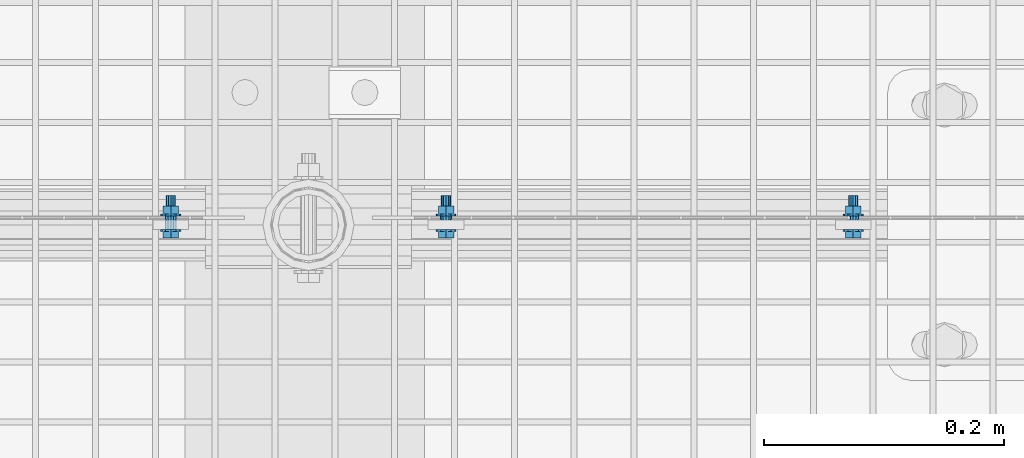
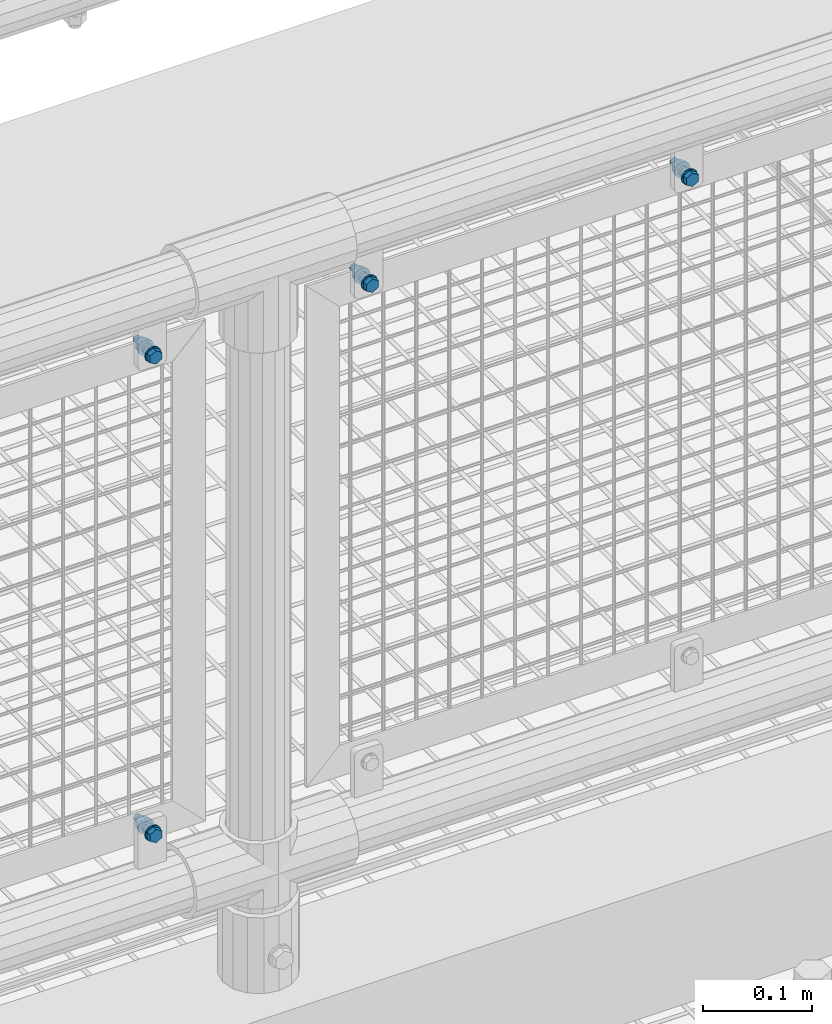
# One storey, part 98 of 1530: 4 mechanical fasteners.
"""IFC2X3 building model written with IfcOpenShell, lengths in millimetres."""

from ifc_helpers import new_model, si_unit, frame, origin_with_axes, place, context, subcontext, project, spatial, faceted_brep, source, transform, mapped, material, type_object, element, save


model = new_model("IFC2X3")

# Units and contexts
model_context = context("Model", 3, precision=1e-05, world=origin_with_axes())
body_context = subcontext(model_context, "Body", "Model", "MODEL_VIEW")
ifc_project = project(units=[si_unit("LENGTHUNIT", "METRE", prefix="MILLI"), si_unit("AREAUNIT", "SQUARE_METRE"), si_unit("VOLUMEUNIT", "CUBIC_METRE"), si_unit("MASSUNIT", "GRAM", prefix="KILO"), si_unit("TIMEUNIT", "SECOND"), si_unit("PLANEANGLEUNIT", "RADIAN"), si_unit("SOLIDANGLEUNIT", "STERADIAN"), si_unit("THERMODYNAMICTEMPERATUREUNIT", "DEGREE_CELSIUS"), si_unit("LUMINOUSINTENSITYUNIT", "LUMEN")], contexts=[model_context])

# Site, building, storey
site_placement = place(None, origin_with_axes())
site = spatial("IfcSite", under=ifc_project, at=site_placement, Name="Brattvåg", CompositionType="ELEMENT")
building_placement = place(site_placement, origin_with_axes())
building = spatial("IfcBuilding", under=site, at=building_placement, Name="Undefined", CompositionType="ELEMENT")
storey_placement = place(building_placement, origin_with_axes())
storey = spatial("IfcBuildingStorey", under=building, at=storey_placement, Name="Undefined", CompositionType="ELEMENT", Elevation=0.0)

# Mechanical fasteners
ifc_material = material(Name="8")
mechanical_fastener_type = type_object("IfcMechanicalFastenerType", Name="Bolt assembly")
shared_shape_1 = source(origin_with_axes(), body_context, "Body", "Brep", [
    faceted_brep([(7.50555349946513, -6.90000021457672, 0.0), (3.75277674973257, -6.90000021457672, 6.5), (-3.75277674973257, -6.90000021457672, 6.5), (-7.50555349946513, -6.90000021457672, 9.19165206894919e-16), (-3.75277674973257, -6.90000021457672, -6.5), (3.75277674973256, -6.90000021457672, -6.5), (3.75277674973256, -1.60000002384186, -6.5), (-3.75277674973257, -1.60000002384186, -6.5), (-7.50555349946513, -1.60000002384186, 9.19165206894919e-16), (-3.75277674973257, -1.60000002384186, 6.5), (3.75277674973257, -1.60000002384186, 6.5), (7.50555349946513, -1.60000002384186, 0.0), (4.0, -1.60000002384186, 0.0), (3.46410161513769, -1.60000002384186, 2.00000000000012), (1.99999999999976, -1.60000002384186, 3.46410161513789), (-4.14534392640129e-13, -1.60000002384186, 4.0), (-2.00000000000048, -1.60000002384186, 3.46410161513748), (-3.4641016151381, -1.60000002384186, 1.9999999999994), (-4.0, -1.60000002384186, -8.29068785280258e-13), (-3.46410161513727, -1.60000002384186, -2.00000000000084), (-1.99999999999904, -1.60000002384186, -3.46410161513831), (1.23916228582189e-12, -1.60000002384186, -4.0), (2.00000000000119, -1.60000002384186, -3.46410161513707), (3.46410161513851, -1.60000002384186, -1.99999999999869), (3.46410161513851, 28.3999999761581, -1.99999999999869), (2.00000000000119, 28.3999999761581, -3.46410161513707), (1.23916228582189e-12, 28.3999999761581, -4.0), (-1.99999999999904, 28.3999999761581, -3.46410161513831), (-3.46410161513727, 28.3999999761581, -2.00000000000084), (-4.0, 28.3999999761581, -8.29068785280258e-13), (-3.4641016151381, 28.3999999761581, 1.9999999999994), (-2.00000000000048, 28.3999999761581, 3.46410161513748), (-4.14534392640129e-13, 28.3999999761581, 4.0), (1.99999999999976, 28.3999999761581, 3.46410161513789), (3.46410161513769, 28.3999999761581, 2.00000000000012), (4.0, 28.3999999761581, 0.0), (8.5, -1.60000002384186, 0.0), (7.36121593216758, -1.60000002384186, 4.25000000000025), (4.24999999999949, -1.60000002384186, 7.36121593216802), (-8.80885584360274e-13, -1.60000002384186, 8.5), (-4.25000000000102, -1.60000002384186, 7.36121593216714), (-7.36121593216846, -1.60000002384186, 4.24999999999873), (-8.5, -1.60000002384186, -1.76177116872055e-12), (-7.3612159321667, -1.60000002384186, -4.25000000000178), (-4.24999999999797, -1.60000002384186, -7.3612159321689), (2.63321985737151e-12, -1.60000002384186, -8.5), (4.25000000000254, -1.60000002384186, -7.36121593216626), (7.36121593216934, -1.60000002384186, -4.24999999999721), (7.36121593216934, 0.0, -4.24999999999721), (4.25000000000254, 0.0, -7.36121593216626), (2.63321985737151e-12, 0.0, -8.5), (-4.24999999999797, 0.0, -7.3612159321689), (-7.3612159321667, 0.0, -4.25000000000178), (-8.5, 0.0, -1.76177116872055e-12), (-7.36121593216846, 0.0, 4.24999999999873), (-4.25000000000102, 0.0, 7.36121593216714), (-8.80885584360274e-13, 0.0, 8.5), (4.24999999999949, 0.0, 7.36121593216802), (7.36121593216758, 0.0, 4.25000000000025), (8.5, 0.0, 0.0), (8.5, 11.5015258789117, 0.0), (7.36121593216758, 11.5015258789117, 4.25000000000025), (4.24999999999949, 11.5015258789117, 7.36121593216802), (-8.80885584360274e-13, 11.5015258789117, 8.5), (-4.25000000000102, 11.5015258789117, 7.36121593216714), (-7.36121593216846, 11.5015258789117, 4.24999999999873), (-8.5, 11.5015258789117, -1.76177116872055e-12), (-7.3612159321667, 11.5015258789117, -4.25000000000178), (-4.24999999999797, 11.5015258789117, -7.3612159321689), (2.63321985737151e-12, 11.5015258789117, -8.5), (4.25000000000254, 11.5015258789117, -7.36121593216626), (7.36121593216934, 11.5015258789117, -4.24999999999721), (7.36121593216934, 13.1015259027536, -4.24999999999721), (4.25000000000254, 13.1015259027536, -7.36121593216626), (2.63321985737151e-12, 13.1015259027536, -8.5), (-4.24999999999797, 13.1015259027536, -7.3612159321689), (-7.3612159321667, 13.1015259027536, -4.25000000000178), (-8.5, 13.1015259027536, -1.76177116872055e-12), (-7.36121593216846, 13.1015259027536, 4.24999999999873), (-4.25000000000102, 13.1015259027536, 7.36121593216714), (-8.80885584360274e-13, 13.1015259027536, 8.5), (4.24999999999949, 13.1015259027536, 7.36121593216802), (7.36121593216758, 13.1015259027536, 4.25000000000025), (8.5, 13.1015259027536, 0.0), (7.50555349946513, 13.1015259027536, 0.0), (3.75277674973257, 13.1015259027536, 6.5), (-3.75277674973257, 13.1015259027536, 6.5), (-7.50555349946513, 13.1015259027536, 9.19165206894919e-16), (-3.75277674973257, 13.1015259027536, -6.5), (3.75277674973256, 13.1015259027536, -6.5), (3.75277674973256, 19.9015260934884, -6.5), (-3.75277674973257, 19.9015260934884, -6.5), (-7.50555349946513, 19.9015260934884, 9.19165206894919e-16), (-3.75277674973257, 19.9015260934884, 6.5), (3.75277674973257, 19.9015260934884, 6.5), (7.50555349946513, 19.9015260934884, 0.0)], [[[0, 1, 2, 3, 4, 5]], [[6, 7, 8, 9, 10, 11]], [[0, 11, 10, 1]], [[1, 10, 9, 2]], [[2, 9, 8, 3]], [[3, 8, 7, 4]], [[4, 7, 6, 5]], [[5, 6, 11, 0]], [[12, 13, 14, 15, 16, 17, 18, 19, 20, 21, 22, 23]], [[24, 25, 26, 27, 28, 29, 30, 31, 32, 33, 34, 35]], [[12, 35, 34, 13]], [[13, 34, 33, 14]], [[14, 33, 32, 15]], [[15, 32, 31, 16]], [[16, 31, 30, 17]], [[17, 30, 29, 18]], [[18, 29, 28, 19]], [[19, 28, 27, 20]], [[20, 27, 26, 21]], [[21, 26, 25, 22]], [[22, 25, 24, 23]], [[23, 24, 35, 12]], [[36, 37, 38, 39, 40, 41, 42, 43, 44, 45, 46, 47]], [[48, 49, 50, 51, 52, 53, 54, 55, 56, 57, 58, 59]], [[36, 59, 58, 37]], [[37, 58, 57, 38]], [[38, 57, 56, 39]], [[39, 56, 55, 40]], [[40, 55, 54, 41]], [[41, 54, 53, 42]], [[42, 53, 52, 43]], [[43, 52, 51, 44]], [[44, 51, 50, 45]], [[45, 50, 49, 46]], [[46, 49, 48, 47]], [[47, 48, 59, 36]], [[60, 61, 62, 63, 64, 65, 66, 67, 68, 69, 70, 71]], [[72, 73, 74, 75, 76, 77, 78, 79, 80, 81, 82, 83]], [[60, 83, 82, 61]], [[61, 82, 81, 62]], [[62, 81, 80, 63]], [[63, 80, 79, 64]], [[64, 79, 78, 65]], [[65, 78, 77, 66]], [[66, 77, 76, 67]], [[67, 76, 75, 68]], [[68, 75, 74, 69]], [[69, 74, 73, 70]], [[70, 73, 72, 71]], [[71, 72, 83, 60]], [[84, 85, 86, 87, 88, 89]], [[90, 91, 92, 93, 94, 95]], [[84, 95, 94, 85]], [[85, 94, 93, 86]], [[86, 93, 92, 87]], [[87, 92, 91, 88]], [[88, 91, 90, 89]], [[89, 90, 95, 84]]]),
    faceted_brep([(5.0, 0.1, 0.0), (4.33012701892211, 0.1, 2.50000000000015), (2.4999999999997, 0.1, 4.33012701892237), (-5.18167990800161e-13, 0.1, 5.0), (-2.5000000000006, 0.1, 4.33012701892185), (-4.33012701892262, 0.1, 2.49999999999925), (-5.0, 0.1, -1.03633598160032e-12), (-4.33012701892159, 0.1, -2.50000000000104), (-2.49999999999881, 0.1, -4.33012701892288), (1.54895285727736e-12, 0.1, -5.0), (2.50000000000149, 0.1, -4.33012701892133), (4.33012701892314, 0.1, -2.49999999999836), (4.33012701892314, 8.1, -2.49999999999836), (2.50000000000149, 8.1, -4.33012701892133), (1.54895285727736e-12, 8.1, -5.0), (-2.49999999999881, 8.1, -4.33012701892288), (-4.33012701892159, 8.1, -2.50000000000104), (-5.0, 8.1, -1.03633598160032e-12), (-4.33012701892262, 8.1, 2.49999999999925), (-2.5000000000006, 8.1, 4.33012701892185), (-5.18167990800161e-13, 8.1, 5.0), (2.4999999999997, 8.1, 4.33012701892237), (4.33012701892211, 8.1, 2.50000000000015), (5.0, 8.1, 0.0), (5.0, 8.40152587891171, 0.0), (4.33012701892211, 8.40152587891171, 2.50000000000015), (2.4999999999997, 8.40152587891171, 4.33012701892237), (-5.18167990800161e-13, 8.40152587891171, 5.0), (-2.5000000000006, 8.40152587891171, 4.33012701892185), (-4.33012701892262, 8.40152587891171, 2.49999999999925), (-5.0, 8.40152587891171, -1.03633598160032e-12), (-4.33012701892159, 8.40152587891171, -2.50000000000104), (-2.49999999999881, 8.40152587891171, -4.33012701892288), (1.54895285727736e-12, 8.40152587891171, -5.0), (2.50000000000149, 8.40152587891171, -4.33012701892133), (4.33012701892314, 8.40152587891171, -2.49999999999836), (4.33012701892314, 11.5015258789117, -2.49999999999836), (2.50000000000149, 11.5015258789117, -4.33012701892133), (1.54895285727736e-12, 11.5015258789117, -5.0), (-2.49999999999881, 11.5015258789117, -4.33012701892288), (-4.33012701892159, 11.5015258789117, -2.50000000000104), (-5.0, 11.5015258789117, -1.03633598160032e-12), (-4.33012701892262, 11.5015258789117, 2.49999999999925), (-2.5000000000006, 11.5015258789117, 4.33012701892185), (-5.18167990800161e-13, 11.5015258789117, 5.0), (2.4999999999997, 11.5015258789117, 4.33012701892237), (4.33012701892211, 11.5015258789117, 2.50000000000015), (5.0, 11.5015258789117, 0.0)], [[[0, 1, 2, 3, 4, 5, 6, 7, 8, 9, 10, 11]], [[12, 13, 14, 15, 16, 17, 18, 19, 20, 21, 22, 23]], [[0, 23, 22, 1]], [[1, 22, 21, 2]], [[2, 21, 20, 3]], [[3, 20, 19, 4]], [[4, 19, 18, 5]], [[5, 18, 17, 6]], [[6, 17, 16, 7]], [[7, 16, 15, 8]], [[8, 15, 14, 9]], [[9, 14, 13, 10]], [[10, 13, 12, 11]], [[11, 12, 23, 0]], [[24, 25, 26, 27, 28, 29, 30, 31, 32, 33, 34, 35]], [[36, 37, 38, 39, 40, 41, 42, 43, 44, 45, 46, 47]], [[24, 47, 46, 25]], [[25, 46, 45, 26]], [[26, 45, 44, 27]], [[27, 44, 43, 28]], [[28, 43, 42, 29]], [[29, 42, 41, 30]], [[30, 41, 40, 31]], [[31, 40, 39, 32]], [[32, 39, 38, 33]], [[33, 38, 37, 34]], [[34, 37, 36, 35]], [[35, 36, 47, 24]]]),
])
for number, where, z_axis, x_axis, name in (
    (1, (13535.8509521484, 7660.49950027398, 889.680069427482), (-1.0, 1.99999855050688e-09, 0.0), (0.0, 0.0, 1.0), "Bolt assembly"),
    (2, (13875.8511047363, 7660.49950027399, 889.680069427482), (-1.0, 1.99999855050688e-09, 0.0), (0.0, 0.0, 1.0), "Bolt assembly"),
):
    element("IfcMechanicalFastener", number, at=place(storey_placement, frame(where, z_axis=z_axis, x_axis=x_axis)), inside=storey, type_object=mechanical_fastener_type, material=ifc_material, Name=name, NominalDiameter=8.0, NominalLength=30.0, context=body_context, shape_type="MappedRepresentation", body=[
        mapped(shared_shape_1, transform((0.0, 0.0, 0.0))),
    ])
shared_shape_2 = source(origin_with_axes(), body_context, "Body", "Brep", [
    faceted_brep([(7.50555349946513, -6.90000021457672, 0.0), (3.75277674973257, -6.90000021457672, 6.5), (-3.75277674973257, -6.90000021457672, 6.5), (-7.50555349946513, -6.90000021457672, 9.19165206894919e-16), (-3.75277674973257, -6.90000021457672, -6.5), (3.75277674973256, -6.90000021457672, -6.5), (3.75277674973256, -1.60000002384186, -6.5), (-3.75277674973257, -1.60000002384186, -6.5), (-7.50555349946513, -1.60000002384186, 9.19165206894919e-16), (-3.75277674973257, -1.60000002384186, 6.5), (3.75277674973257, -1.60000002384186, 6.5), (7.50555349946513, -1.60000002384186, 0.0), (4.0, -1.60000002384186, 0.0), (3.46410161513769, -1.60000002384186, 2.00000000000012), (1.99999999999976, -1.60000002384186, 3.46410161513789), (-4.14534392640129e-13, -1.60000002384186, 4.0), (-2.00000000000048, -1.60000002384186, 3.46410161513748), (-3.4641016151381, -1.60000002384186, 1.9999999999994), (-4.0, -1.60000002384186, -8.29068785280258e-13), (-3.46410161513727, -1.60000002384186, -2.00000000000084), (-1.99999999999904, -1.60000002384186, -3.46410161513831), (1.23916228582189e-12, -1.60000002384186, -4.0), (2.00000000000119, -1.60000002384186, -3.46410161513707), (3.46410161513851, -1.60000002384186, -1.99999999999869), (3.46410161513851, 28.3999999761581, -1.99999999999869), (2.00000000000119, 28.3999999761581, -3.46410161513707), (1.23916228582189e-12, 28.3999999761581, -4.0), (-1.99999999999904, 28.3999999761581, -3.46410161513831), (-3.46410161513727, 28.3999999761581, -2.00000000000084), (-4.0, 28.3999999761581, -8.29068785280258e-13), (-3.4641016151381, 28.3999999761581, 1.9999999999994), (-2.00000000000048, 28.3999999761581, 3.46410161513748), (-4.14534392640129e-13, 28.3999999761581, 4.0), (1.99999999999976, 28.3999999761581, 3.46410161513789), (3.46410161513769, 28.3999999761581, 2.00000000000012), (4.0, 28.3999999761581, 0.0), (8.5, -1.60000002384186, 0.0), (7.36121593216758, -1.60000002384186, 4.25000000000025), (4.24999999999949, -1.60000002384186, 7.36121593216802), (-8.80885584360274e-13, -1.60000002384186, 8.5), (-4.25000000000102, -1.60000002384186, 7.36121593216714), (-7.36121593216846, -1.60000002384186, 4.24999999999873), (-8.5, -1.60000002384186, -1.76177116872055e-12), (-7.3612159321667, -1.60000002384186, -4.25000000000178), (-4.24999999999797, -1.60000002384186, -7.3612159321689), (2.63321985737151e-12, -1.60000002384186, -8.5), (4.25000000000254, -1.60000002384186, -7.36121593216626), (7.36121593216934, -1.60000002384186, -4.24999999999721), (7.36121593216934, 0.0, -4.24999999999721), (4.25000000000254, 0.0, -7.36121593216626), (2.63321985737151e-12, 0.0, -8.5), (-4.24999999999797, 0.0, -7.3612159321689), (-7.3612159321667, 0.0, -4.25000000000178), (-8.5, 0.0, -1.76177116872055e-12), (-7.36121593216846, 0.0, 4.24999999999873), (-4.25000000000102, 0.0, 7.36121593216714), (-8.80885584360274e-13, 0.0, 8.5), (4.24999999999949, 0.0, 7.36121593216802), (7.36121593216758, 0.0, 4.25000000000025), (8.5, 0.0, 0.0), (8.5, 11.5021362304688, 0.0), (7.36121593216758, 11.5021362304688, 4.25000000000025), (4.24999999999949, 11.5021362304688, 7.36121593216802), (-8.80885584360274e-13, 11.5021362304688, 8.5), (-4.25000000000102, 11.5021362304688, 7.36121593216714), (-7.36121593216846, 11.5021362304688, 4.24999999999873), (-8.5, 11.5021362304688, -1.76177116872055e-12), (-7.3612159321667, 11.5021362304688, -4.25000000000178), (-4.24999999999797, 11.5021362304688, -7.3612159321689), (2.63321985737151e-12, 11.5021362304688, -8.5), (4.25000000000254, 11.5021362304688, -7.36121593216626), (7.36121593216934, 11.5021362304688, -4.24999999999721), (7.36121593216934, 13.1021362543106, -4.24999999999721), (4.25000000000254, 13.1021362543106, -7.36121593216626), (2.63321985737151e-12, 13.1021362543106, -8.5), (-4.24999999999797, 13.1021362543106, -7.3612159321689), (-7.3612159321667, 13.1021362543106, -4.25000000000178), (-8.5, 13.1021362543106, -1.76177116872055e-12), (-7.36121593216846, 13.1021362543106, 4.24999999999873), (-4.25000000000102, 13.1021362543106, 7.36121593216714), (-8.80885584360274e-13, 13.1021362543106, 8.5), (4.24999999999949, 13.1021362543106, 7.36121593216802), (7.36121593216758, 13.1021362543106, 4.25000000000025), (8.5, 13.1021362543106, 0.0), (7.50555349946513, 13.1021362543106, 0.0), (3.75277674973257, 13.1021362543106, 6.5), (-3.75277674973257, 13.1021362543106, 6.5), (-7.50555349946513, 13.1021362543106, 9.19165206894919e-16), (-3.75277674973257, 13.1021362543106, -6.5), (3.75277674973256, 13.1021362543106, -6.5), (3.75277674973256, 19.9021364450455, -6.5), (-3.75277674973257, 19.9021364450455, -6.5), (-7.50555349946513, 19.9021364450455, 9.19165206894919e-16), (-3.75277674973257, 19.9021364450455, 6.5), (3.75277674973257, 19.9021364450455, 6.5), (7.50555349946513, 19.9021364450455, 0.0)], [[[0, 1, 2, 3, 4, 5]], [[6, 7, 8, 9, 10, 11]], [[0, 11, 10, 1]], [[1, 10, 9, 2]], [[2, 9, 8, 3]], [[3, 8, 7, 4]], [[4, 7, 6, 5]], [[5, 6, 11, 0]], [[12, 13, 14, 15, 16, 17, 18, 19, 20, 21, 22, 23]], [[24, 25, 26, 27, 28, 29, 30, 31, 32, 33, 34, 35]], [[12, 35, 34, 13]], [[13, 34, 33, 14]], [[14, 33, 32, 15]], [[15, 32, 31, 16]], [[16, 31, 30, 17]], [[17, 30, 29, 18]], [[18, 29, 28, 19]], [[19, 28, 27, 20]], [[20, 27, 26, 21]], [[21, 26, 25, 22]], [[22, 25, 24, 23]], [[23, 24, 35, 12]], [[36, 37, 38, 39, 40, 41, 42, 43, 44, 45, 46, 47]], [[48, 49, 50, 51, 52, 53, 54, 55, 56, 57, 58, 59]], [[36, 59, 58, 37]], [[37, 58, 57, 38]], [[38, 57, 56, 39]], [[39, 56, 55, 40]], [[40, 55, 54, 41]], [[41, 54, 53, 42]], [[42, 53, 52, 43]], [[43, 52, 51, 44]], [[44, 51, 50, 45]], [[45, 50, 49, 46]], [[46, 49, 48, 47]], [[47, 48, 59, 36]], [[60, 61, 62, 63, 64, 65, 66, 67, 68, 69, 70, 71]], [[72, 73, 74, 75, 76, 77, 78, 79, 80, 81, 82, 83]], [[60, 83, 82, 61]], [[61, 82, 81, 62]], [[62, 81, 80, 63]], [[63, 80, 79, 64]], [[64, 79, 78, 65]], [[65, 78, 77, 66]], [[66, 77, 76, 67]], [[67, 76, 75, 68]], [[68, 75, 74, 69]], [[69, 74, 73, 70]], [[70, 73, 72, 71]], [[71, 72, 83, 60]], [[84, 85, 86, 87, 88, 89]], [[90, 91, 92, 93, 94, 95]], [[84, 95, 94, 85]], [[85, 94, 93, 86]], [[86, 93, 92, 87]], [[87, 92, 91, 88]], [[88, 91, 90, 89]], [[89, 90, 95, 84]]]),
    faceted_brep([(5.0, 0.1, 0.0), (4.33012701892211, 0.1, 2.50000000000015), (2.4999999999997, 0.1, 4.33012701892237), (-5.18167990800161e-13, 0.1, 5.0), (-2.5000000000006, 0.1, 4.33012701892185), (-4.33012701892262, 0.1, 2.49999999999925), (-5.0, 0.1, -1.03633598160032e-12), (-4.33012701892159, 0.1, -2.50000000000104), (-2.49999999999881, 0.1, -4.33012701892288), (1.54895285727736e-12, 0.1, -5.0), (2.50000000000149, 0.1, -4.33012701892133), (4.33012701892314, 0.1, -2.49999999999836), (4.33012701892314, 8.1, -2.49999999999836), (2.50000000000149, 8.1, -4.33012701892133), (1.54895285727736e-12, 8.1, -5.0), (-2.49999999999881, 8.1, -4.33012701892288), (-4.33012701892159, 8.1, -2.50000000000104), (-5.0, 8.1, -1.03633598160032e-12), (-4.33012701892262, 8.1, 2.49999999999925), (-2.5000000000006, 8.1, 4.33012701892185), (-5.18167990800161e-13, 8.1, 5.0), (2.4999999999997, 8.1, 4.33012701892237), (4.33012701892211, 8.1, 2.50000000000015), (5.0, 8.1, 0.0), (5.0, 8.40213623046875, 0.0), (4.33012701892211, 8.40213623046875, 2.50000000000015), (2.4999999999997, 8.40213623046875, 4.33012701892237), (-5.18167990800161e-13, 8.40213623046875, 5.0), (-2.5000000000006, 8.40213623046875, 4.33012701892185), (-4.33012701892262, 8.40213623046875, 2.49999999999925), (-5.0, 8.40213623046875, -1.03633598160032e-12), (-4.33012701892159, 8.40213623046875, -2.50000000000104), (-2.49999999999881, 8.40213623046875, -4.33012701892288), (1.54895285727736e-12, 8.40213623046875, -5.0), (2.50000000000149, 8.40213623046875, -4.33012701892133), (4.33012701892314, 8.40213623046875, -2.49999999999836), (4.33012701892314, 11.5021362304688, -2.49999999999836), (2.50000000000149, 11.5021362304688, -4.33012701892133), (1.54895285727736e-12, 11.5021362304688, -5.0), (-2.49999999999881, 11.5021362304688, -4.33012701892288), (-4.33012701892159, 11.5021362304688, -2.50000000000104), (-5.0, 11.5021362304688, -1.03633598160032e-12), (-4.33012701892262, 11.5021362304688, 2.49999999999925), (-2.5000000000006, 11.5021362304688, 4.33012701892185), (-5.18167990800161e-13, 11.5021362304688, 5.0), (2.4999999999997, 11.5021362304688, 4.33012701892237), (4.33012701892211, 11.5021362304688, 2.50000000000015), (5.0, 11.5021362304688, 0.0)], [[[0, 1, 2, 3, 4, 5, 6, 7, 8, 9, 10, 11]], [[12, 13, 14, 15, 16, 17, 18, 19, 20, 21, 22, 23]], [[0, 23, 22, 1]], [[1, 22, 21, 2]], [[2, 21, 20, 3]], [[3, 20, 19, 4]], [[4, 19, 18, 5]], [[5, 18, 17, 6]], [[6, 17, 16, 7]], [[7, 16, 15, 8]], [[8, 15, 14, 9]], [[9, 14, 13, 10]], [[10, 13, 12, 11]], [[11, 12, 23, 0]], [[24, 25, 26, 27, 28, 29, 30, 31, 32, 33, 34, 35]], [[36, 37, 38, 39, 40, 41, 42, 43, 44, 45, 46, 47]], [[24, 47, 46, 25]], [[25, 46, 45, 26]], [[26, 45, 44, 27]], [[27, 44, 43, 28]], [[28, 43, 42, 29]], [[29, 42, 41, 30]], [[30, 41, 40, 31]], [[31, 40, 39, 32]], [[32, 39, 38, 33]], [[33, 38, 37, 34]], [[34, 37, 36, 35]], [[35, 36, 47, 24]]]),
])
mechanical_fastener_1_placement = place(storey_placement, frame((13306.0000915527, 7660.49888992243, 889.679782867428), z_axis=(-1.0, 1.99999855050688e-09, 0.0), x_axis=(0.0, 0.0, 1.0)))
element("IfcMechanicalFastener", 3, at=mechanical_fastener_1_placement, inside=storey, type_object=mechanical_fastener_type, material=ifc_material, Name="Bolt assembly", NominalDiameter=8.0, NominalLength=30.0, context=body_context, shape_type="MappedRepresentation", body=[
    mapped(shared_shape_2, transform((0.0, 0.0, 0.0))),
])
shared_shape_3 = source(origin_with_axes(), body_context, "Body", "Brep", [
    faceted_brep([(7.50555349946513, -6.899000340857, 0.0), (3.75277674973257, -6.899000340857, 6.5), (-3.75277674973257, -6.899000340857, 6.5), (-7.50555349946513, -6.899000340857, 9.19165206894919e-16), (-3.75277674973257, -6.899000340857, -6.5), (3.75277674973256, -6.899000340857, -6.5), (3.75277674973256, -1.59900015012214, -6.5), (-3.75277674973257, -1.59900015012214, -6.5), (-7.50555349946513, -1.59900015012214, 9.19165206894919e-16), (-3.75277674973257, -1.59900015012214, 6.5), (3.75277674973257, -1.59900015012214, 6.5), (7.50555349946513, -1.59900015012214, 0.0), (4.0, -1.59900015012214, 0.0), (3.46410161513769, -1.59900015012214, 2.00000000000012), (1.99999999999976, -1.59900015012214, 3.46410161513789), (-4.14534392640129e-13, -1.59900015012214, 4.0), (-2.00000000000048, -1.59900015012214, 3.46410161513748), (-3.4641016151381, -1.59900015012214, 1.9999999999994), (-4.0, -1.59900015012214, -8.29068785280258e-13), (-3.46410161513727, -1.59900015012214, -2.00000000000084), (-1.99999999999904, -1.59900015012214, -3.46410161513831), (1.23916228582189e-12, -1.59900015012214, -4.0), (2.00000000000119, -1.59900015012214, -3.46410161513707), (3.46410161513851, -1.59900015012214, -1.99999999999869), (3.46410161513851, 28.4009998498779, -1.99999999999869), (2.00000000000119, 28.4009998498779, -3.46410161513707), (1.23916228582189e-12, 28.4009998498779, -4.0), (-1.99999999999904, 28.4009998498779, -3.46410161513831), (-3.46410161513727, 28.4009998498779, -2.00000000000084), (-4.0, 28.4009998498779, -8.29068785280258e-13), (-3.4641016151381, 28.4009998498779, 1.9999999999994), (-2.00000000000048, 28.4009998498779, 3.46410161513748), (-4.14534392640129e-13, 28.4009998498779, 4.0), (1.99999999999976, 28.4009998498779, 3.46410161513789), (3.46410161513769, 28.4009998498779, 2.00000000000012), (4.0, 28.4009998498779, 0.0), (8.5, -1.59900015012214, 0.0), (7.36121593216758, -1.59900015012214, 4.25000000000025), (4.24999999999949, -1.59900015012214, 7.36121593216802), (-8.80885584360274e-13, -1.59900015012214, 8.5), (-4.25000000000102, -1.59900015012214, 7.36121593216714), (-7.36121593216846, -1.59900015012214, 4.24999999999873), (-8.5, -1.59900015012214, -1.76177116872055e-12), (-7.3612159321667, -1.59900015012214, -4.25000000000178), (-4.24999999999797, -1.59900015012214, -7.3612159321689), (2.63321985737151e-12, -1.59900015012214, -8.5), (4.25000000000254, -1.59900015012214, -7.36121593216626), (7.36121593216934, -1.59900015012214, -4.24999999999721), (7.36121593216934, 0.000999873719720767, -4.24999999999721), (4.25000000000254, 0.000999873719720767, -7.36121593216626), (2.63321985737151e-12, 0.000999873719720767, -8.5), (-4.24999999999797, 0.000999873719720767, -7.3612159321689), (-7.3612159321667, 0.000999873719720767, -4.25000000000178), (-8.5, 0.000999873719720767, -1.76177116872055e-12), (-7.36121593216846, 0.000999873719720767, 4.24999999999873), (-4.25000000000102, 0.000999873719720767, 7.36121593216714), (-8.80885584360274e-13, 0.000999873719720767, 8.5), (4.24999999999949, 0.000999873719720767, 7.36121593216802), (7.36121593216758, 0.000999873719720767, 4.25000000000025), (8.5, 0.000999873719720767, 0.0), (8.5, 11.5022147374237, 0.0), (7.36121593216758, 11.5022147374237, 4.25000000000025), (4.24999999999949, 11.5022147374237, 7.36121593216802), (-8.80885584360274e-13, 11.5022147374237, 8.5), (-4.25000000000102, 11.5022147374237, 7.36121593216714), (-7.36121593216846, 11.5022147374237, 4.24999999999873), (-8.5, 11.5022147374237, -1.76177116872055e-12), (-7.3612159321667, 11.5022147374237, -4.25000000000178), (-4.24999999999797, 11.5022147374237, -7.3612159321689), (2.63321985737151e-12, 11.5022147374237, -8.5), (4.25000000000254, 11.5022147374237, -7.36121593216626), (7.36121593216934, 11.5022147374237, -4.24999999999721), (7.36121593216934, 13.1022147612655, -4.24999999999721), (4.25000000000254, 13.1022147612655, -7.36121593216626), (2.63321985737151e-12, 13.1022147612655, -8.5), (-4.24999999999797, 13.1022147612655, -7.3612159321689), (-7.3612159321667, 13.1022147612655, -4.25000000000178), (-8.5, 13.1022147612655, -1.76177116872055e-12), (-7.36121593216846, 13.1022147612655, 4.24999999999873), (-4.25000000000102, 13.1022147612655, 7.36121593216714), (-8.80885584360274e-13, 13.1022147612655, 8.5), (4.24999999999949, 13.1022147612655, 7.36121593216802), (7.36121593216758, 13.1022147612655, 4.25000000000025), (8.5, 13.1022147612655, 0.0), (7.50555349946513, 13.1022147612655, 0.0), (3.75277674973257, 13.1022147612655, 6.5), (-3.75277674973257, 13.1022147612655, 6.5), (-7.50555349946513, 13.1022147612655, 9.19165206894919e-16), (-3.75277674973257, 13.1022147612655, -6.5), (3.75277674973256, 13.1022147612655, -6.5), (3.75277674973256, 19.9022149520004, -6.5), (-3.75277674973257, 19.9022149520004, -6.5), (-7.50555349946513, 19.9022149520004, 9.19165206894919e-16), (-3.75277674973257, 19.9022149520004, 6.5), (3.75277674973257, 19.9022149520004, 6.5), (7.50555349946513, 19.9022149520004, 0.0)], [[[0, 1, 2, 3, 4, 5]], [[6, 7, 8, 9, 10, 11]], [[0, 11, 10, 1]], [[1, 10, 9, 2]], [[2, 9, 8, 3]], [[3, 8, 7, 4]], [[4, 7, 6, 5]], [[5, 6, 11, 0]], [[12, 13, 14, 15, 16, 17, 18, 19, 20, 21, 22, 23]], [[24, 25, 26, 27, 28, 29, 30, 31, 32, 33, 34, 35]], [[12, 35, 34, 13]], [[13, 34, 33, 14]], [[14, 33, 32, 15]], [[15, 32, 31, 16]], [[16, 31, 30, 17]], [[17, 30, 29, 18]], [[18, 29, 28, 19]], [[19, 28, 27, 20]], [[20, 27, 26, 21]], [[21, 26, 25, 22]], [[22, 25, 24, 23]], [[23, 24, 35, 12]], [[36, 37, 38, 39, 40, 41, 42, 43, 44, 45, 46, 47]], [[48, 49, 50, 51, 52, 53, 54, 55, 56, 57, 58, 59]], [[36, 59, 58, 37]], [[37, 58, 57, 38]], [[38, 57, 56, 39]], [[39, 56, 55, 40]], [[40, 55, 54, 41]], [[41, 54, 53, 42]], [[42, 53, 52, 43]], [[43, 52, 51, 44]], [[44, 51, 50, 45]], [[45, 50, 49, 46]], [[46, 49, 48, 47]], [[47, 48, 59, 36]], [[60, 61, 62, 63, 64, 65, 66, 67, 68, 69, 70, 71]], [[72, 73, 74, 75, 76, 77, 78, 79, 80, 81, 82, 83]], [[60, 83, 82, 61]], [[61, 82, 81, 62]], [[62, 81, 80, 63]], [[63, 80, 79, 64]], [[64, 79, 78, 65]], [[65, 78, 77, 66]], [[66, 77, 76, 67]], [[67, 76, 75, 68]], [[68, 75, 74, 69]], [[69, 74, 73, 70]], [[70, 73, 72, 71]], [[71, 72, 83, 60]], [[84, 85, 86, 87, 88, 89]], [[90, 91, 92, 93, 94, 95]], [[84, 95, 94, 85]], [[85, 94, 93, 86]], [[86, 93, 92, 87]], [[87, 92, 91, 88]], [[88, 91, 90, 89]], [[89, 90, 95, 84]]]),
    faceted_brep([(5.0, 0.100999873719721, 0.0), (4.33012701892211, 0.100999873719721, 2.50000000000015), (2.4999999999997, 0.100999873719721, 4.33012701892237), (-5.18167990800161e-13, 0.100999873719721, 5.0), (-2.5000000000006, 0.100999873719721, 4.33012701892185), (-4.33012701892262, 0.100999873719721, 2.49999999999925), (-5.0, 0.100999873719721, -1.03633598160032e-12), (-4.33012701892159, 0.100999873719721, -2.50000000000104), (-2.49999999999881, 0.100999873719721, -4.33012701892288), (1.54895285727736e-12, 0.100999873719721, -5.0), (2.50000000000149, 0.100999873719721, -4.33012701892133), (4.33012701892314, 0.100999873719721, -2.49999999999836), (4.33012701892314, 8.10099988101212, -2.49999999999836), (2.50000000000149, 8.10099988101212, -4.33012701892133), (1.54895285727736e-12, 8.10099988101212, -5.0), (-2.49999999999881, 8.10099988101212, -4.33012701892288), (-4.33012701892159, 8.10099988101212, -2.50000000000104), (-5.0, 8.10099988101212, -1.03633598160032e-12), (-4.33012701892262, 8.10099988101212, 2.49999999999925), (-2.5000000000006, 8.10099988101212, 4.33012701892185), (-5.18167990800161e-13, 8.10099988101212, 5.0), (2.4999999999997, 8.10099988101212, 4.33012701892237), (4.33012701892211, 8.10099988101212, 2.50000000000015), (5.0, 8.10099988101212, 0.0), (5.0, 8.40221473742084, 0.0), (4.33012701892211, 8.40221473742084, 2.50000000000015), (2.4999999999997, 8.40221473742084, 4.33012701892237), (-5.18167990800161e-13, 8.40221473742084, 5.0), (-2.5000000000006, 8.40221473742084, 4.33012701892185), (-4.33012701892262, 8.40221473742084, 2.49999999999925), (-5.0, 8.40221473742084, -1.03633598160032e-12), (-4.33012701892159, 8.40221473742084, -2.50000000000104), (-2.49999999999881, 8.40221473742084, -4.33012701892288), (1.54895285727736e-12, 8.40221473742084, -5.0), (2.50000000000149, 8.40221473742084, -4.33012701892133), (4.33012701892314, 8.40221473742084, -2.49999999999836), (4.33012701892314, 11.5022147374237, -2.49999999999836), (2.50000000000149, 11.5022147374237, -4.33012701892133), (1.54895285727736e-12, 11.5022147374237, -5.0), (-2.49999999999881, 11.5022147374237, -4.33012701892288), (-4.33012701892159, 11.5022147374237, -2.50000000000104), (-5.0, 11.5022147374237, -1.03633598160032e-12), (-4.33012701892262, 11.5022147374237, 2.49999999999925), (-2.5000000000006, 11.5022147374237, 4.33012701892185), (-5.18167990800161e-13, 11.5022147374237, 5.0), (2.4999999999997, 11.5022147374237, 4.33012701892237), (4.33012701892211, 11.5022147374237, 2.50000000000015), (5.0, 11.5022147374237, 0.0)], [[[0, 1, 2, 3, 4, 5, 6, 7, 8, 9, 10, 11]], [[12, 13, 14, 15, 16, 17, 18, 19, 20, 21, 22, 23]], [[0, 23, 22, 1]], [[1, 22, 21, 2]], [[2, 21, 20, 3]], [[3, 20, 19, 4]], [[4, 19, 18, 5]], [[5, 18, 17, 6]], [[6, 17, 16, 7]], [[7, 16, 15, 8]], [[8, 15, 14, 9]], [[9, 14, 13, 10]], [[10, 13, 12, 11]], [[11, 12, 23, 0]], [[24, 25, 26, 27, 28, 29, 30, 31, 32, 33, 34, 35]], [[36, 37, 38, 39, 40, 41, 42, 43, 44, 45, 46, 47]], [[24, 47, 46, 25]], [[25, 46, 45, 26]], [[26, 45, 44, 27]], [[27, 44, 43, 28]], [[28, 43, 42, 29]], [[29, 42, 41, 30]], [[30, 41, 40, 31]], [[31, 40, 39, 32]], [[32, 39, 38, 33]], [[33, 38, 37, 34]], [[34, 37, 36, 35]], [[35, 36, 47, 24]]]),
])
mechanical_fastener_2_placement = place(storey_placement, frame((13305.99974823, 7660.49888992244, 352.300205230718), z_axis=(-1.0, 1.99999855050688e-09, 0.0), x_axis=(0.0, 0.0, 1.0)))
element("IfcMechanicalFastener", 4, at=mechanical_fastener_2_placement, inside=storey, type_object=mechanical_fastener_type, material=ifc_material, Name="Bolt assembly", NominalDiameter=8.0, NominalLength=30.0, context=body_context, shape_type="MappedRepresentation", body=[
    mapped(shared_shape_3, transform((0.0, 0.0, 0.0))),
])

save(model, "model.ifc")
